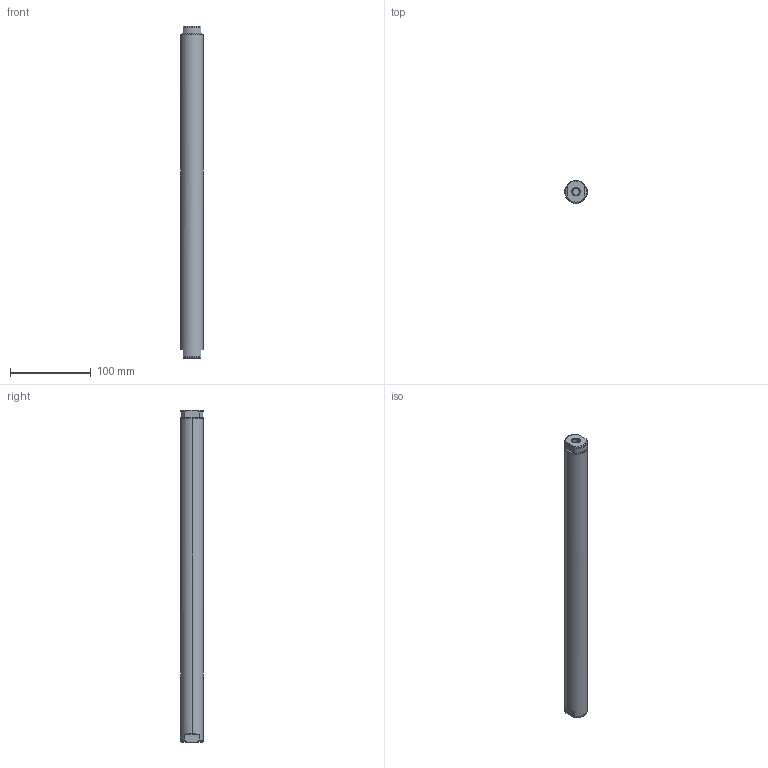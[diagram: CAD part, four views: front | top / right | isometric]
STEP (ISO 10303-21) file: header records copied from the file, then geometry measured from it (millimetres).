
FILE_DESCRIPTION (( 'STEP AP214' ), '1' );
FILE_NAME ('PL01-28x410!330.STEP', '2004-06-16T08:10:15', ( 'Mitarbeiter' ), ( 'Firma' ), 'SwSTEP 2.0', 'SolidWorks 2001287', '' );
FILE_SCHEMA (( 'AUTOMOTIVE_DESIGN' ));
Length unit declared in the file: millimetre
Products named in the file (1): PL01-28x410!330
Bounding box: 28 x 28 x 410 mm (x, y, z)
Volume: 249058.6 mm3; surface area: 38022.3 mm2
Topology: 1 solids, 1 shells, 41 faces, 104 edges, 68 vertices
Faces by surface type: plane 15, cylinder 10, torus 8, cone 8
Entity records: 1353 total; most frequent: CARTESIAN_POINT 374, ORIENTED_EDGE 208, DIRECTION 192, EDGE_CURVE 104, AXIS2_PLACEMENT_3D 78, VERTEX_POINT 68, EDGE_LOOP 44, ADVANCED_FACE 41
